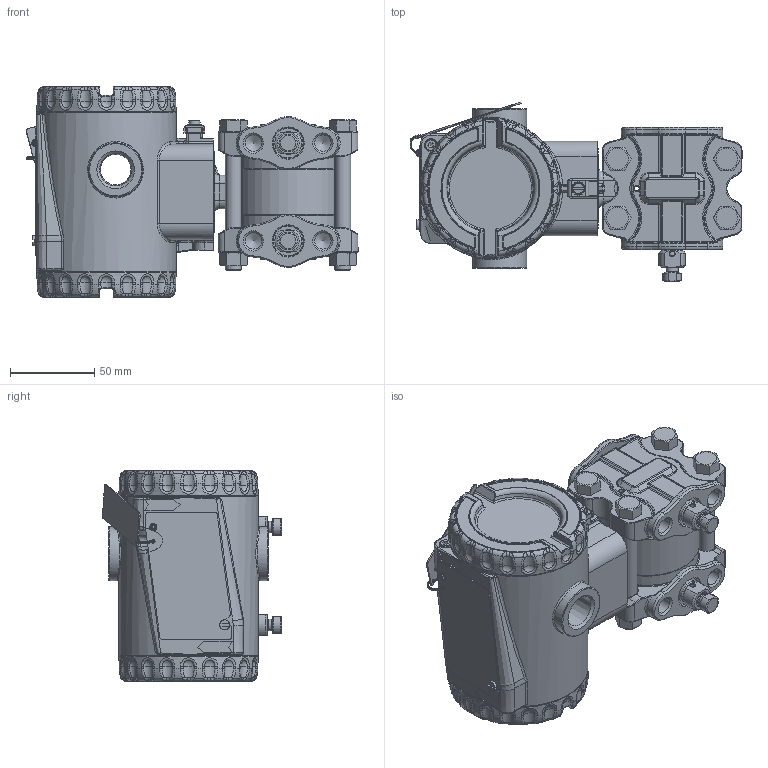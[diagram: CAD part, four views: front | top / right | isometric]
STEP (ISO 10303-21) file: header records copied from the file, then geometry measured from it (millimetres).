
FILE_DESCRIPTION(/* description */ (''),/* implementation_level */ '2;1');
FILE_NAME(/* name */ 'F:\Area\Desenvolvimento_2\Projects\Sensor\projetos\LD400-3d\dimensionais 3D clientes\LD400H5 1-4NPT purga oposta.stp',/* time_stamp */ '2023-02-02T11:58:22-03:00',/* author */ ('inventor02'),/* organization */ (''),/* preprocessor_version */ 'ST-DEVELOPER v17',/* originating_system */ 'Autodesk Inventor 2019',/* authorisation */ '');
FILE_SCHEMA (('CONFIG_CONTROL_DESIGN'));
Products named in the file (29): LD400H5 1-4NPT purga oposta; Carcaça 400 com tampas e plaqueta sem letras; 101-D-0845-05 carcaça LD400 sem letras; 101-B-3614-03-tampa 400 sem letras; Tampa visor 400 montada sem letras; 101-B-3612-05 tampa visor 400 sem letras; 101-A-6107; oring 2034; 00034775-0; WHW_250; DIN 915 - M6 x 10; Chapa aterramento externo; 201-A-1771-02 inserto terra recartilhado; AS 1969 - ST4,2; ISO 1207 - M4 x 8; ANSI B18.3.1M - M4x0,7 x 8; Subconjunto plaqueta 400; plaqueta 400 em branco; Parafuso da Plaqueta; Rebite da Plaqueta; 096-A-0169-03; 101-A-0502-01; diferencial FX5 purga oposta; involucro fx5 apos a usinagem final; 075-B-0046-purgador; flange diferencial std sem purga; Paraf. 3-8 x 16 UNC; Porca 3-8 x 16 UNC; Sangria
Assembly tree (38 placements, depth 4):
  LD400H5 1-4NPT purga oposta
    Carcaça 400 com tampas e plaqueta sem letras
      101-D-0845-05 carcaça LD400 sem letras
      101-B-3614-03-tampa 400 sem letras
      Tampa visor 400 montada sem letras
        101-B-3612-05 tampa visor 400 sem letras
        101-A-6107
        oring 2034
        00034775-0
        WHW_250
      DIN 915 - M6 x 10
      Chapa aterramento externo
      201-A-1771-02 inserto terra recartilhado
      AS 1969 - ST4,2
      ISO 1207 - M4 x 8
      ANSI B18.3.1M - M4x0,7 x 8  x2
      Subconjunto plaqueta 400
        plaqueta 400 em branco
        Parafuso da Plaqueta
        Rebite da Plaqueta
        096-A-0169-03
        101-A-0502-01
    diferencial FX5 purga oposta
      involucro fx5 apos a usinagem final
      flange diferencial std sem purga  x2
      075-B-0046-purgador  x2
      Paraf. 3-8 x 16 UNC  x4
      Porca 3-8 x 16 UNC  x4
      Sangria  x2
Bounding box: 197.25 x 106.39 x 125 mm (x, y, z)
Volume: 618742.5 mm3; surface area: 237001.4 mm2
Topology: 34 solids, 34 shells, 2623 faces, 6361 edges, 3795 vertices
Faces by surface type: plane 649, cylinder 639, bspline 611, torus 440, cone 213, sphere 71
Full cylindrical faces by diameter (mm): 2 x2, 2.1 x1, 2.2 x1, 2.459 x3, 2.7 x1, 3 x7, 3.242 x3, 3.571 x1, 4 x4, 4.3 x2, 4.4 x1, 4.917 x1, 5.5 x6, 6 x2, 6.1 x2, 6.2 x1, 6.8 x2, 7 x4, 7.6 x2, 7.798 x4, 8 x2, 9.525 x4, 9.728 x8, 10.5 x8, 10.719 x4, 13.8 x2, 14 x1, 18.3 x2, 18.5 x4, 32 x2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
Entity records: 80439 total; most frequent: CARTESIAN_POINT 31473, ORIENTED_EDGE 10198, DIRECTION 9941, EDGE_CURVE 5099, AXIS2_PLACEMENT_3D 4198, VERTEX_POINT 3063, CIRCLE 2405, EDGE_LOOP 2208
